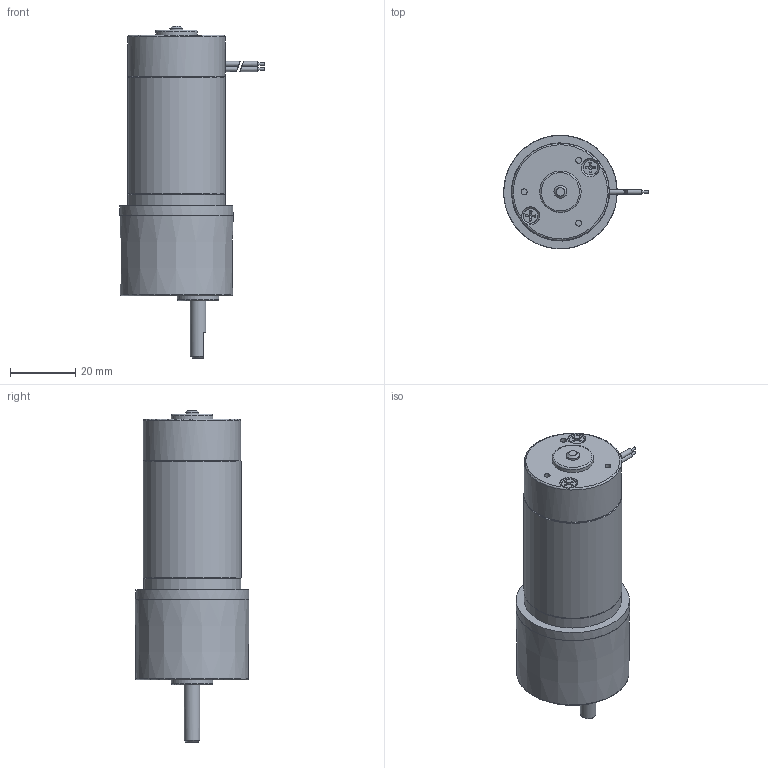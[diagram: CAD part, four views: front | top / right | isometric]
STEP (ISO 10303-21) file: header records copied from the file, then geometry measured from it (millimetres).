
FILE_DESCRIPTION((''),'2;1');
FILE_NAME('Z:\4_DC\새 폴더\RS3 SERIES\RS33ㅁㅁL(V,W).stp','2015-02-12T15:57:34',('kdhkdh'),(''),'Autodesk Inventor 2013','Autodesk Inventor 2013','');
FILE_SCHEMA(('AUTOMOTIVE_DESIGN { 1 0 10303 214 1 1 1 1 }'));
Length unit declared in the file: millimetre
Products named in the file (1): 부품2
Bounding box: 44.28 x 34.74 x 101.59 mm (x, y, z)
Volume: 63161.3 mm3; surface area: 10773.9 mm2
Topology: 2 solids, 7 shells, 203 faces, 502 edges, 326 vertices
Faces by surface type: plane 76, cylinder 60, cone 43, torus 24
Full cylindrical faces by diameter (mm): 0.76 x2, 1.56 x4, 1.8 x3, 2.156 x3, 2.5 x5, 2.6 x2, 2.7 x3, 4 x1, 4.4 x5, 4.76 x1, 5.5 x5, 12.7 x2, 29.8 x2, 30 x1, 34.7 x1
Entity records: 6114 total; most frequent: CARTESIAN_POINT 1753, DIRECTION 842, ORIENTED_EDGE 818, EDGE_CURVE 409, AXIS2_PLACEMENT_3D 377, VERTEX_POINT 296, EDGE_LOOP 290, FACE_OUTER_BOUND 203
